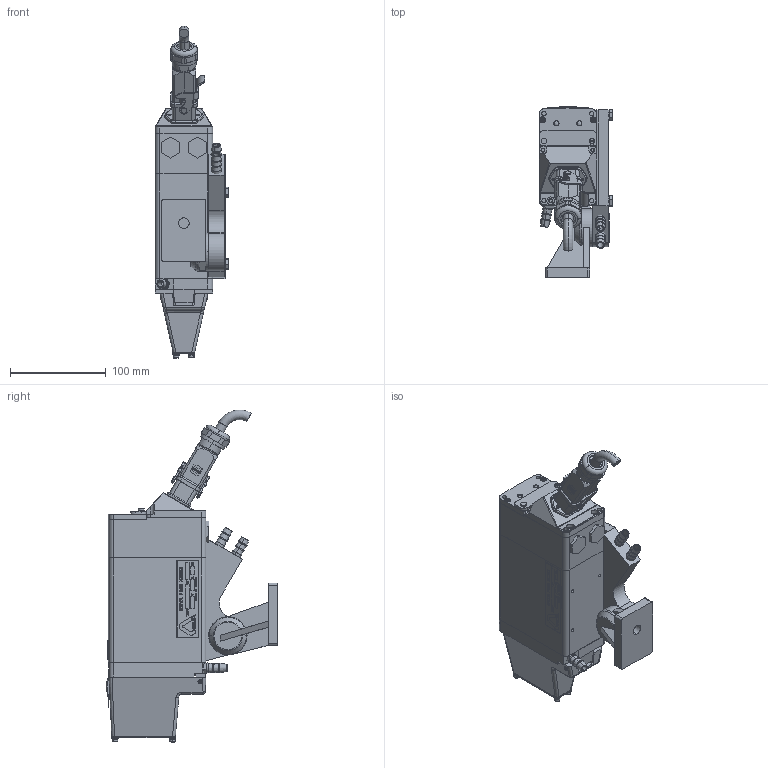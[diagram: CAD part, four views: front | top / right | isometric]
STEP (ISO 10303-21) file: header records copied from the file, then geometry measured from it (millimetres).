
FILE_DESCRIPTION (( 'STEP AP214' ), '1' );
FILE_NAME ('Z50_JC_STEP.STEP', '2020-08-28T09:28:41', ( '' ), ( '' ), 'SwSTEP 2.0', 'SolidWorks 2014', '' );
FILE_SCHEMA (( 'AUTOMOTIVE_DESIGN' ));
Length unit declared in the file: millimetre
Products named in the file (1): Z50_JC_STEP
Bounding box: 77.01 x 178.92 x 346.83 mm (x, y, z)
Surface area: 237166.9 mm2 (no closed solid volume)
Topology: 0 solids, 152 shells, 1065 faces, 4294 edges, 3333 vertices
Faces by surface type: plane 514, cylinder 325, bspline 116, cone 86, torus 22, sphere 2
Entity records: 68045 total; most frequent: CARTESIAN_POINT 22716, DIRECTION 6359, ORIENTED_EDGE 6214, EDGE_CURVE 4274, VERTEX_POINT 3333, LINE 2487, VECTOR 2487, AXIS2_PLACEMENT_3D 1936
